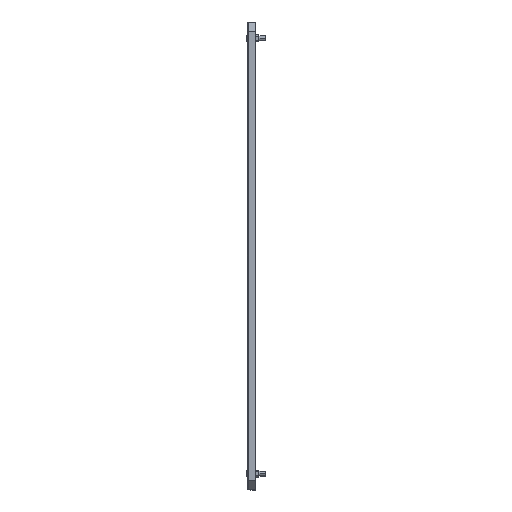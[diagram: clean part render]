
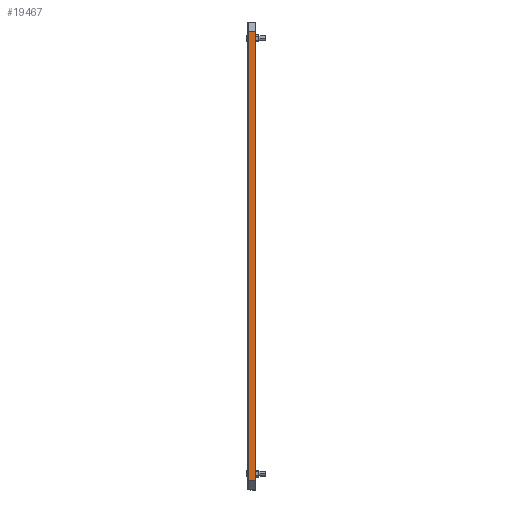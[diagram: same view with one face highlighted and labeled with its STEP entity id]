
A CAD part, left-side view. The second image highlights one B-rep face of the part: STEP entity #19467.
In plain terms, the highlighted planar face has unit normal (-1, 0, 0).
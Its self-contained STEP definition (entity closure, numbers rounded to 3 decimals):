
#3229 = ORIENTED_EDGE ( 'NONE', *, *, #43436, .F. ) ;
#3230 = ORIENTED_EDGE ( 'NONE', *, *, #43432, .F. ) ;
#3231 = ORIENTED_EDGE ( 'NONE', *, *, #43440, .T. ) ;
#3233 = ORIENTED_EDGE ( 'NONE', *, *, #43439, .F. ) ;
#5271 = EDGE_LOOP ( 'NONE', ( #3230, #3231, #3229, #3233 ) ) ;
#19467 = ADVANCED_FACE ( 'NONE', ( #26257 ), #30656, .F. ) ;
#26257 = FACE_OUTER_BOUND ( 'NONE', #5271, .T. ) ;
#26264 = AXIS2_PLACEMENT_3D ( 'NONE', #30657, #30658, #30659 ) ;
#30656 = PLANE ( 'NONE',  #26264 ) ;
#30657 = CARTESIAN_POINT ( 'NONE',  ( -400., -18., 480. ) ) ;
#30658 = DIRECTION ( 'NONE',  ( 1., 0., 0. ) ) ;
#30659 = DIRECTION ( 'NONE',  ( 0., 1., 0. ) ) ;
#35784 = VECTOR ( 'NONE', #41729, 1000. ) ;
#35788 = VECTOR ( 'NONE', #41741, 1000. ) ;
#35791 = VECTOR ( 'NONE', #41750, 1000. ) ;
#35793 = VECTOR ( 'NONE', #41753, 1000. ) ;
#41727 = LINE ( 'NONE', #41728, #35784 ) ;
#41728 = CARTESIAN_POINT ( 'NONE',  ( -400., -2.4, 480. ) ) ;
#41729 = DIRECTION ( 'NONE',  ( 0., 0., 1. ) ) ;
#41739 = LINE ( 'NONE', #41740, #35788 ) ;
#41740 = CARTESIAN_POINT ( 'NONE',  ( -400., -18., 480. ) ) ;
#41741 = DIRECTION ( 'NONE',  ( 0., 0., -1. ) ) ;
#41748 = LINE ( 'NONE', #41749, #35791 ) ;
#41749 = CARTESIAN_POINT ( 'NONE',  ( -400., -1.2, 479.395 ) ) ;
#41750 = DIRECTION ( 'NONE',  ( 0., -1., 0. ) ) ;
#41751 = LINE ( 'NONE', #41752, #35793 ) ;
#41752 = CARTESIAN_POINT ( 'NONE',  ( -400., -18., -479.395 ) ) ;
#41753 = DIRECTION ( 'NONE',  ( 0., -1., 0. ) ) ;
#43432 = EDGE_CURVE ( 'NONE', #54511, #54513, #41727, .T. ) ;
#43436 = EDGE_CURVE ( 'NONE', #54518, #54516, #41739, .T. ) ;
#43439 = EDGE_CURVE ( 'NONE', #54513, #54518, #41748, .T. ) ;
#43440 = EDGE_CURVE ( 'NONE', #54511, #54516, #41751, .T. ) ;
#50316 = CARTESIAN_POINT ( 'NONE',  ( -400., -2.4, -479.395 ) ) ;
#50318 = CARTESIAN_POINT ( 'NONE',  ( -400., -2.4, 479.395 ) ) ;
#50321 = CARTESIAN_POINT ( 'NONE',  ( -400., -18., -479.395 ) ) ;
#50323 = CARTESIAN_POINT ( 'NONE',  ( -400., -18., 479.395 ) ) ;
#54511 = VERTEX_POINT ( 'NONE', #50316 ) ;
#54513 = VERTEX_POINT ( 'NONE', #50318 ) ;
#54516 = VERTEX_POINT ( 'NONE', #50321 ) ;
#54518 = VERTEX_POINT ( 'NONE', #50323 ) ;
